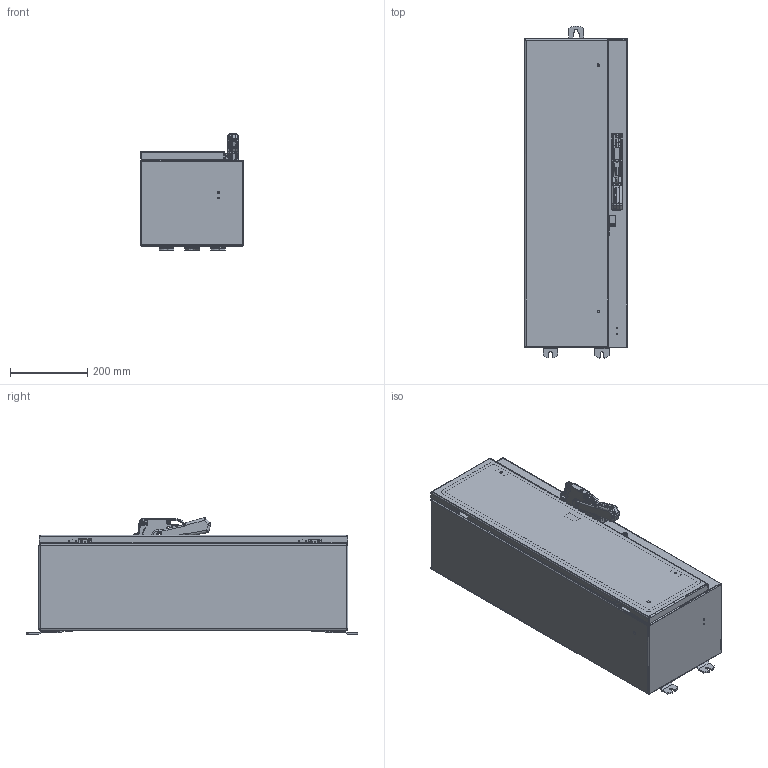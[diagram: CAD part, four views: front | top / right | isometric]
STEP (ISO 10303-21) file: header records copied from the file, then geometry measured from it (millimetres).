
FILE_DESCRIPTION((''),'2;1');
FILE_NAME('31X10-TYPE12_ASM','2008-06-13T',('abschul1'),('Rockwell Automation'),'PRO/ENGINEER BY PARAMETRIC TECHNOLOGY CORPORATION, 2004320','PRO/ENGINEER BY PARAMETRIC TECHNOLOGY CORPORATION, 2004320','');
FILE_SCHEMA(('CONFIG_CONTROL_DESIGN'));
Length unit declared in the file: inch
Products named in the file (26): 40406-444-LEFTFORM; 40406-444-BACKPLT; 40406-444-RIGHT; 40406-062; 40406-M7881; 41021-105; 41021-WELD-PROJ; 41021-105-PROJ01; 41021-105_ASM; 40406-070; 40406-111; 40406-M5313; 40406-444-BASE_ASM; 40406-444-DOR1HOLE; B-35623; 40406-444-GASKET; 40406-B36552; 40406-B37393; 40406-444-DOR-1HL_ASM; 40406-444-CLOSED_ASM; 40392-018; 40392-015; 40392-016; 40045-SMALL-HDL-OFF_ASM; 40406-40406001; 31X10-TYPE12_ASM
Assembly tree (38 placements, depth 5):
  31X10-TYPE12_ASM
    40406-444-CLOSED_ASM
      40406-444-BASE_ASM
        40406-444-LEFTFORM
        40406-444-BACKPLT
        40406-444-RIGHT
        40406-062  x2
        40406-M7881
        41021-105_ASM  x2
          41021-105
          41021-WELD-PROJ
          41021-105-PROJ01
        40406-070
        40406-111  x2
        40406-M5313  x4
      40406-444-DOR-1HL_ASM
        40406-444-DOR1HOLE
        B-35623  x2
        40406-444-GASKET
        40406-M7881
        40406-070
        40406-B36552
        40406-B37393  x2
    40045-SMALL-HDL-OFF_ASM
      40392-018
      40392-015
      40392-016
    40406-40406001  x3
Bounding box: 266.7 x 859.89 x 302.33 mm (x, y, z)
Volume: 2263768.7 mm3; surface area: 2258286.3 mm2
Topology: 36 solids, 37 shells, 3415 faces, 8063 edges, 4769 vertices
Faces by surface type: plane 1072, cylinder 983, cone 462, bspline 413, torus 371, sphere 114
Entity records: 104077 total; most frequent: CARTESIAN_POINT 36281, ORIENTED_EDGE 14124, DIRECTION 14100, EDGE_CURVE 7086, AXIS2_PLACEMENT_3D 5493, VERTEX_POINT 4220, EDGE_LOOP 3179, VECTOR 3114
